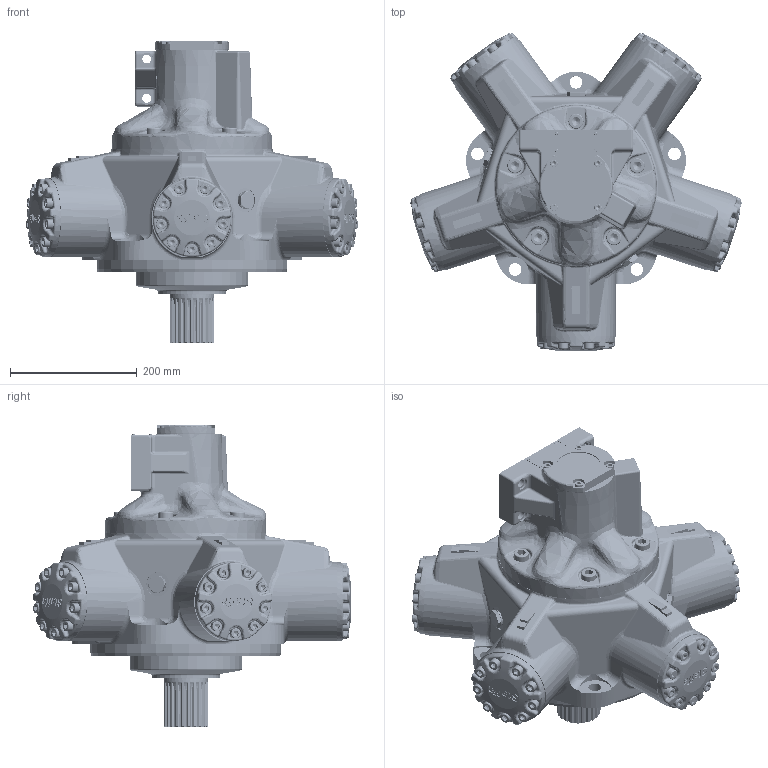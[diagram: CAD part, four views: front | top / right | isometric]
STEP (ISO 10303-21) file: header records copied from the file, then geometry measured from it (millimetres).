
FILE_DESCRIPTION(/* description */ (''),/* implementation_level */ '2;1');
FILE_NAME(/* name */ 'HMB100_T_SM3_70.stp',/* time_stamp */ '2025-12-01T14:35:13Z',/* author */ ('ccallanga'),/* organization */ (''),/* preprocessor_version */ 'ST-DEVELOPER v20',/* originating_system */ 'Autodesk Inventor 2024',/* authorisation */ '');
FILE_SCHEMA (('AUTOMOTIVE_DESIGN { 1 0 10303 214 3 1 1 }'));
Length unit declared in the file: millimetre
Products named in the file (1): HMB100 Web Assembly_Simplify_1
Bounding box: 524.48 x 502.42 x 478.33 mm (x, y, z)
Volume: 26050461.6 mm3; surface area: 820567.9 mm2
Topology: 1 solids, 1 shells, 5346 faces, 12910 edges, 7566 vertices
Faces by surface type: bspline 1879, plane 1418, cylinder 1159, torus 563, sphere 185, cone 142
Full cylindrical faces by diameter (mm): 5 x4, 8.376 x2, 9.4 x1, 11.328 x1, 11.913 x4, 12 x1, 12.7 x4, 14 x4, 16 x55, 16.5 x45, 16.51 x1, 17 x10, 20 x9, 23.825 x5, 25.4 x5, 26.92 x2, 32 x2, 38.1 x3, 68.58 x1, 69.4 x1, 69.825 x1, 73.914 x1, 88.901 x1, 107.95 x1, 177.8 x1, 254 x1, 301.535 x1
Entity records: 222102 total; most frequent: CARTESIAN_POINT 106028, ORIENTED_EDGE 25364, DIRECTION 19299, EDGE_CURVE 12682, AXIS2_PLACEMENT_3D 7575, VERTEX_POINT 7566, EDGE_LOOP 5602, STYLED_ITEM 5347
